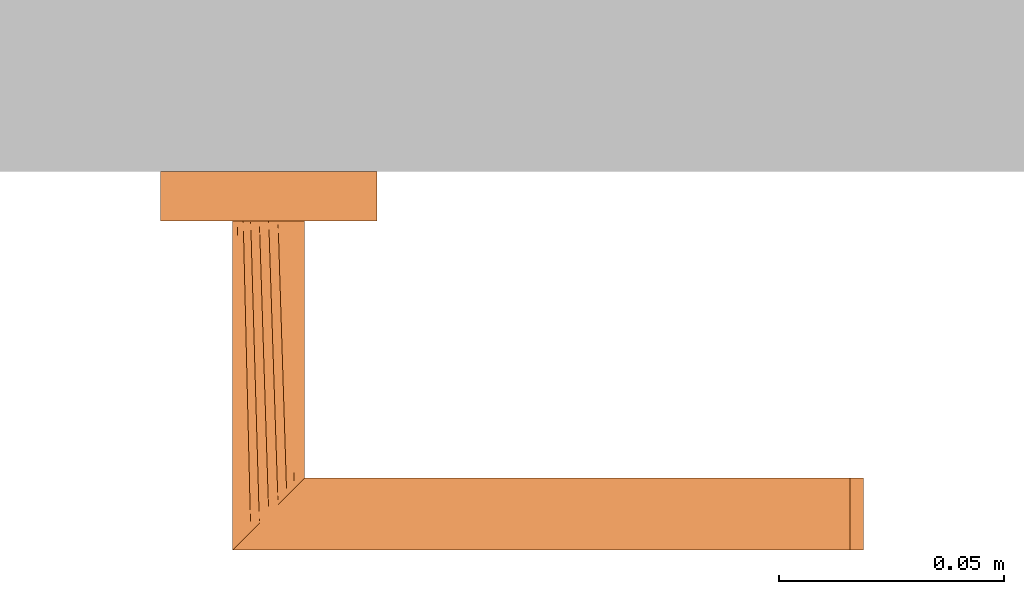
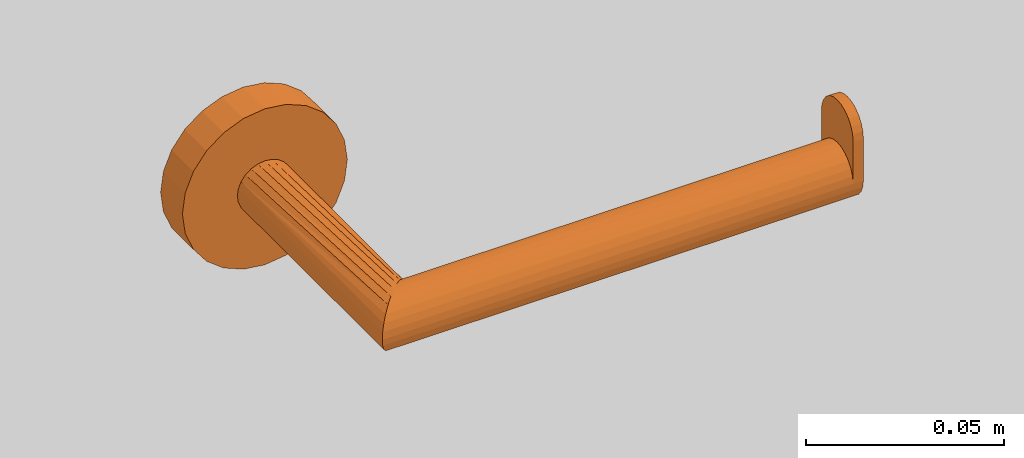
# One storey, part 3 of 3: 1 proxy.
"""IFC2X3 building model written with IfcOpenShell, lengths in millimetres."""

from ifc_helpers import new_model, entity, si_unit, converted_unit, derived_unit, direction, frame, origin, place, context, subcontext, project, spatial, faceted_brep, source, transform, mapped, material, type_object, type_shapes, element, save


model = new_model("IFC2X3")

# Units and contexts
model_context = context("Model", 3, precision=0.01, world=origin(), true_north=direction((6.12303176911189e-17, 1.0)))
body_context = subcontext(model_context, "Body", "Model", "MODEL_VIEW")
ifc_project = project(units=[si_unit("LENGTHUNIT", "METRE", prefix="MILLI"), si_unit("AREAUNIT", "SQUARE_METRE"), si_unit("VOLUMEUNIT", "CUBIC_METRE"), converted_unit("PLANEANGLEUNIT", "DEGREE", entity("IfcRatioMeasure", 0.0174532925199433), si_unit("PLANEANGLEUNIT", "RADIAN"), dimensions=[0, 0, 0, 0, 0, 0, 0]), si_unit("MASSUNIT", "GRAM", prefix="KILO"), derived_unit("MASSDENSITYUNIT", [(si_unit("MASSUNIT", "GRAM", prefix="KILO"), 1), (si_unit("LENGTHUNIT", "METRE"), -3)]), si_unit("TIMEUNIT", "SECOND"), si_unit("FREQUENCYUNIT", "HERTZ"), si_unit("THERMODYNAMICTEMPERATUREUNIT", "DEGREE_CELSIUS"), derived_unit("THERMALTRANSMITTANCEUNIT", [(si_unit("MASSUNIT", "GRAM", prefix="KILO"), 1), (si_unit("THERMODYNAMICTEMPERATUREUNIT", "KELVIN"), -1), (si_unit("TIMEUNIT", "SECOND"), -3)]), derived_unit("VOLUMETRICFLOWRATEUNIT", [(si_unit("LENGTHUNIT", "METRE"), 3), (si_unit("TIMEUNIT", "SECOND"), -1)]), si_unit("ELECTRICCURRENTUNIT", "AMPERE"), si_unit("ELECTRICVOLTAGEUNIT", "VOLT"), si_unit("POWERUNIT", "WATT"), si_unit("FORCEUNIT", "NEWTON", prefix="KILO"), si_unit("ILLUMINANCEUNIT", "LUX"), si_unit("LUMINOUSFLUXUNIT", "LUMEN"), si_unit("LUMINOUSINTENSITYUNIT", "CANDELA"), derived_unit("USERDEFINED", [(si_unit("MASSUNIT", "GRAM", prefix="KILO"), -1), (si_unit("LENGTHUNIT", "METRE"), -2), (si_unit("TIMEUNIT", "SECOND"), 3), (si_unit("LUMINOUSFLUXUNIT", "LUMEN"), 1)]), derived_unit("LINEARVELOCITYUNIT", [(si_unit("LENGTHUNIT", "METRE"), 1), (si_unit("TIMEUNIT", "SECOND"), -1)]), si_unit("PRESSUREUNIT", "PASCAL"), derived_unit("USERDEFINED", [(si_unit("LENGTHUNIT", "METRE"), -2), (si_unit("MASSUNIT", "GRAM", prefix="KILO"), 1), (si_unit("TIMEUNIT", "SECOND"), -2)])], contexts=[model_context])

# Site, building, storey
site_placement = place(None, origin())
site = spatial("IfcSite", under=ifc_project, at=site_placement, Name="Default", CompositionType="ELEMENT")
building_placement = place(site_placement, origin())
building = spatial("IfcBuilding", under=site, at=building_placement, CompositionType="ELEMENT")
storey_placement = place(building_placement, origin())
storey = spatial("IfcBuildingStorey", under=building, at=storey_placement, Name="Level 0", CompositionType="ELEMENT", Elevation=0.0)

# Proxy
ifc_material = material(Name="Duten_Metal_Polished")
building_element_proxy_type = type_object("IfcBuildingElementProxyType", Name="Polished Stainless Steel", PredefinedType="USERDEFINED", material=ifc_material)
shared_shape = source(origin(), body_context, "Body", "Brep", [
    faceted_brep([(3.0, 72.0, 45.523475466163), (3.0, 70.3431457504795, 44.2521264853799), (3.0, 69.0717967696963, 42.5952722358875), (3.0, 68.2725933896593, 40.6658245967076), (3.0, 68.0, 38.5952722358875), (3.0, 68.0, 25.5952722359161), (3.0, 68.2725933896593, 23.5247198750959), (3.0, 69.0717967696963, 21.595272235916), (3.0, 70.3431457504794, 19.9384179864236), (3.0, 72.0, 18.6670690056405), (3.0, 73.9294476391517, 17.8678656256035), (3.0, 76.0, 17.595272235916), (3.0, 78.070552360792, 17.8678656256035), (3.0, 80.0, 18.6670690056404), (3.0, 81.6568542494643, 19.9384179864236), (3.0, 82.9282032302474, 21.595272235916), (3.0, 83.7274066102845, 23.5247198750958), (3.0, 84.0, 25.595272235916), (3.0, 84.0, 38.5952722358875), (3.0, 83.7274066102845, 40.6658245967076), (3.0, 82.9282032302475, 42.5952722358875), (3.0, 81.6568542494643, 44.2521264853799), (3.0, 80.0, 45.523475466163), (3.0, 78.0705523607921, 46.3226788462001), (3.0, 76.0, 46.5952722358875), (3.0, 73.9294476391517, 46.3226788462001), (0.0, 72.0, 18.6670690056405), (0.0, 70.3431457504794, 19.9384179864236), (0.0, 69.0717967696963, 21.595272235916), (0.0, 68.2725933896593, 23.5247198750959), (0.0, 68.0, 25.595272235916), (0.0, 68.0, 38.5952722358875), (0.0, 68.2725933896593, 40.6658245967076), (0.0, 69.0717967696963, 42.5952722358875), (0.0, 70.3431457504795, 44.2521264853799), (0.0, 72.0, 45.523475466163), (0.0, 73.9294476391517, 46.3226788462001), (0.0, 76.0, 46.5952722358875), (0.0, 78.0705523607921, 46.3226788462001), (0.0, 80.0, 45.523475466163), (0.0, 81.6568542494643, 44.2521264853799), (0.0, 82.9282032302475, 42.5952722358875), (0.0, 83.7274066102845, 40.6658245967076), (0.0, 84.0, 38.5952722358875), (0.0, 84.0, 25.595272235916), (0.0, 83.7274066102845, 23.5247198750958), (0.0, 82.9282032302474, 21.595272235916), (0.0, 81.6568542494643, 19.9384179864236), (0.0, 80.0, 18.6670690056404), (0.0, 78.070552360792, 17.8678656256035), (0.0, 76.0, 17.595272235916), (0.0, 73.9294476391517, 17.8678656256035)], [[[0, 1, 2, 3, 4, 5, 6, 7, 8, 9, 10, 11, 12, 13, 14, 15, 16, 17, 18, 19, 20, 21, 22, 23, 24, 25]], [[26, 27, 28, 29, 30, 31, 32, 33, 34, 35, 36, 37, 38, 39, 40, 41, 42, 43, 44, 45, 46, 47, 48, 49, 50, 51]], [[42, 19, 18, 43]], [[41, 20, 19, 42]], [[22, 21, 40, 39]], [[41, 40, 21, 20]], [[23, 22, 39, 38]], [[24, 23, 38, 37]], [[36, 25, 24, 37]], [[35, 0, 25, 36]], [[2, 1, 34, 33]], [[35, 34, 1, 0]], [[3, 2, 33, 32]], [[4, 3, 32, 31]], [[5, 4, 31, 30]], [[18, 17, 44, 43]], [[29, 6, 5, 30]], [[28, 7, 6, 29]], [[9, 8, 27, 26]], [[28, 27, 8, 7]], [[10, 9, 26, 51]], [[11, 10, 51, 50]], [[49, 12, 11, 50]], [[48, 13, 12, 49]], [[15, 14, 47, 46]], [[48, 47, 14, 13]], [[16, 15, 46, 45]], [[17, 16, 45, 44]]]),
    faceted_brep([(129.92944763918, 11.0, 17.8678656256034), (132.0, 11.0, 17.5952722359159), (134.07055236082, 11.0, 17.8678656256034), (136.0, 11.0, 18.6670690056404), (137.656854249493, 11.0, 19.9384179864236), (138.928203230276, 11.0, 21.595272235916), (139.727406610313, 11.0, 23.5247198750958), (140.0, 11.0, 25.595272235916), (139.727406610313, 11.0, 27.6658245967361), (138.928203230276, 11.0, 29.595272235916), (137.656854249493, 11.0, 31.2521264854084), (136.0, 11.0, 32.5234754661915), (134.070552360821, 11.0, 33.3226788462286), (132.0, 11.0, 33.5952722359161), (129.92944763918, 11.0, 33.3226788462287), (128.0, 11.0, 32.5234754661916), (126.343145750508, 11.0, 31.2521264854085), (125.071796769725, 11.0, 29.5952722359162), (124.272593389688, 11.0, 27.6658245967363), (124.0, 11.0, 25.595272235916), (124.272593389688, 11.0, 23.5247198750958), (125.071796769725, 11.0, 21.595272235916), (126.343145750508, 11.0, 19.9384179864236), (128.0, 11.0, 18.6670690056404), (140.0, 84.0, 25.595272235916), (139.727406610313, 83.7274066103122, 27.665824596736), (138.928203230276, 82.9282032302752, 29.5952722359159), (137.656854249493, 81.6568542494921, 31.2521264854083), (136.0, 80.0, 32.5234754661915), (134.070552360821, 78.0705523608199, 33.3226788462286), (132.0, 76.0, 33.5952722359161), (129.92944763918, 73.9294476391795, 33.3226788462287), (128.0, 72.0, 32.5234754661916), (126.343145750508, 70.3431457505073, 31.2521264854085), (124.272593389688, 68.2725933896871, 27.6658245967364), (124.0, 68.0, 25.5952722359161), (125.071796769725, 69.0717967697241, 29.5952722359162), (125.071796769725, 69.071796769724, 21.595272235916), (126.343145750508, 70.3431457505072, 19.9384179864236), (124.272593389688, 68.272593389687, 23.5247198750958), (128.0, 72.0, 18.6670690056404), (129.92944763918, 73.9294476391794, 17.8678656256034), (132.0, 76.0, 17.5952722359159), (136.0, 80.0, 18.6670690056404), (134.070552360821, 78.0705523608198, 17.8678656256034), (137.656854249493, 81.6568542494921, 19.9384179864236), (138.928203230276, 82.9282032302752, 21.595272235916), (139.727406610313, 83.7274066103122, 23.5247198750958), (3.0, 73.9294476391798, 17.8678656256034), (3.0, 72.0, 18.6670690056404), (3.0, 70.3431457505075, 19.9384179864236), (3.0, 69.0717967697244, 21.595272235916), (3.0, 68.2725933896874, 23.5247198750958), (3.0, 68.0, 25.5952722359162), (3.0, 68.2725933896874, 27.6658245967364), (3.0, 69.0717967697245, 29.5952722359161), (3.0, 70.3431457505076, 31.2521264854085), (3.0, 72.0, 32.5234754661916), (3.0, 73.9294476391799, 33.3226788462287), (3.0, 76.0, 33.5952722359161), (3.0, 78.0705523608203, 33.3226788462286), (3.0, 80.0, 32.5234754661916), (3.0, 81.6568542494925, 31.2521264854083), (3.0, 82.9282032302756, 29.595272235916), (3.0, 83.7274066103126, 27.6658245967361), (3.0, 84.0, 25.595272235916), (3.0, 83.7274066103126, 23.5247198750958), (3.0, 82.9282032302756, 21.595272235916), (3.0, 81.6568542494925, 19.9384179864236), (3.0, 80.0, 18.6670690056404), (3.0, 78.0705523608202, 17.8678656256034), (3.0, 76.0, 17.5952722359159)], [[[0, 1, 2, 3, 4, 5, 6, 7, 8, 9, 10, 11, 12, 13, 14, 15, 16, 17, 18, 19, 20, 21, 22, 23]], [[7, 24, 25, 8]], [[26, 9, 8, 25]], [[9, 27, 28]], [[26, 27, 9]], [[10, 28, 29]], [[12, 30, 31]], [[30, 12, 11]], [[10, 29, 11]], [[10, 9, 28]], [[29, 30, 11]], [[32, 33, 14]], [[31, 32, 13]], [[34, 35, 19, 18]], [[36, 34, 18, 17]], [[33, 36, 17, 16]], [[33, 15, 14]], [[14, 13, 32]], [[16, 15, 33]], [[31, 13, 12]], [[37, 38, 22, 21]], [[39, 37, 21, 20]], [[1, 40, 41]], [[0, 40, 1]], [[38, 40, 0]], [[35, 39, 20, 19]], [[23, 22, 38]], [[38, 0, 23]], [[41, 42, 2]], [[43, 4, 44]], [[45, 5, 43]], [[6, 5, 46, 47]], [[45, 46, 5]], [[7, 6, 47, 24]], [[3, 2, 42]], [[1, 41, 2]], [[4, 43, 5]], [[4, 3, 44]], [[42, 44, 3]], [[48, 49, 50, 51, 52, 53, 54, 55, 56, 57, 58, 59, 60, 61, 62, 63, 64, 65, 66, 67, 68, 69, 70, 71]], [[64, 63, 26, 25]], [[65, 64, 25, 24]], [[61, 60, 29, 28]], [[62, 61, 28, 27]], [[63, 62, 27, 26]], [[30, 29, 60, 59]], [[57, 56, 33, 32]], [[58, 57, 32, 31]], [[54, 53, 35, 34]], [[55, 54, 34, 36]], [[56, 55, 36, 33]], [[30, 59, 58, 31]], [[52, 51, 37, 39]], [[53, 52, 39, 35]], [[49, 48, 41, 40]], [[50, 49, 40, 38]], [[51, 50, 38, 37]], [[71, 42, 41, 48]], [[69, 68, 45, 43]], [[70, 69, 43, 44]], [[66, 65, 24, 47]], [[67, 66, 47, 46]], [[68, 67, 46, 45]], [[44, 42, 71, 70]]]),
    faceted_brep([(120.0, 0.0, 46.3798819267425), (115.029437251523, 0.0, 42.5658349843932), (111.215390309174, 0.0, 37.5952722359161), (108.817780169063, 0.0, 31.8069293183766), (108.0, 0.0, 25.595272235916), (108.817780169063, 0.0, 19.3836151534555), (111.215390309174, 0.0, 13.595272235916), (115.029437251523, 0.0, 8.62470948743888), (120.0, 0.0, 4.81066254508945), (125.78834291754, 0.0, 2.41305240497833), (132.0, 0.0, 1.59527223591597), (138.211657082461, 0.0, 2.41305240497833), (144.0, 0.0, 4.81066254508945), (148.970562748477, 0.0, 8.62470948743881), (152.784609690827, 0.0, 13.5952722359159), (155.182219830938, 0.0, 19.3836151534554), (156.0, 0.0, 25.5952722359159), (155.182219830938, 0.0, 31.8069293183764), (152.784609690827, 0.0, 37.595272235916), (148.970562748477, 0.0, 42.565834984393), (144.0, 0.0, 46.3798819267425), (138.211657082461, 0.0, 48.7774920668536), (132.0, 0.0, 49.5952722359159), (125.78834291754, 0.0, 48.7774920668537), (115.029437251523, 11.0, 8.62470948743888), (111.215390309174, 11.0, 13.595272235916), (108.817780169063, 11.0, 19.3836151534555), (108.0, 11.0, 25.5952722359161), (108.817780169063, 11.0, 31.8069293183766), (111.215390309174, 11.0, 37.5952722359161), (115.029437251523, 11.0, 42.5658349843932), (120.0, 11.0, 46.3798819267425), (125.78834291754, 11.0, 48.7774920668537), (132.0, 11.0, 49.5952722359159), (138.211657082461, 11.0, 48.7774920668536), (144.0, 11.0, 46.3798819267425), (148.970562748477, 11.0, 42.565834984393), (152.784609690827, 11.0, 37.595272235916), (155.182219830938, 11.0, 31.8069293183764), (156.0, 11.0, 25.5952722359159), (155.182219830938, 11.0, 19.3836151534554), (152.784609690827, 11.0, 13.5952722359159), (148.970562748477, 11.0, 8.62470948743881), (144.0, 11.0, 4.81066254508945), (138.211657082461, 11.0, 2.41305240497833), (132.0, 11.0, 1.59527223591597), (125.78834291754, 11.0, 2.41305240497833), (120.0, 11.0, 4.81066254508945)], [[[0, 1, 2, 3, 4, 5, 6, 7, 8, 9, 10, 11, 12, 13, 14, 15, 16, 17, 18, 19, 20, 21, 22, 23]], [[24, 25, 26, 27, 28, 29, 30, 31, 32, 33, 34, 35, 36, 37, 38, 39, 40, 41, 42, 43, 44, 45, 46, 47]], [[38, 17, 16, 39]], [[37, 18, 17, 38]], [[20, 19, 36, 35]], [[37, 36, 19, 18]], [[21, 20, 35, 34]], [[22, 21, 34, 33]], [[32, 23, 22, 33]], [[31, 0, 23, 32]], [[2, 1, 30, 29]], [[31, 30, 1, 0]], [[3, 2, 29, 28]], [[4, 3, 28, 27]], [[26, 5, 4, 27]], [[25, 6, 5, 26]], [[8, 7, 24, 47]], [[25, 24, 7, 6]], [[9, 8, 47, 46]], [[10, 9, 46, 45]], [[44, 11, 10, 45]], [[43, 12, 11, 44]], [[14, 13, 42, 41]], [[43, 42, 13, 12]], [[15, 14, 41, 40]], [[16, 15, 40, 39]]]),
])
type_shapes(building_element_proxy_type, [shared_shape])
proxy_placement = place(storey_placement, frame((-4392.06711548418, 781.719275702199, 904.404727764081), z_axis=(0.0, 0.0, 1.0), x_axis=(-1.0, 0.0, 0.0)))
element("IfcBuildingElementProxy", 1, at=proxy_placement, inside=storey, type_object=building_element_proxy_type, material=ifc_material, Name="Duten_PprRllDpnsrs_H101:Polished Stainless Steel", ObjectType="Polished Stainless Steel", context=body_context, shape_type="MappedRepresentation", body=[
    mapped(shared_shape, transform((0.0, 0.0, 0.0), scale=1.0)),
])

save(model, "model.ifc")
